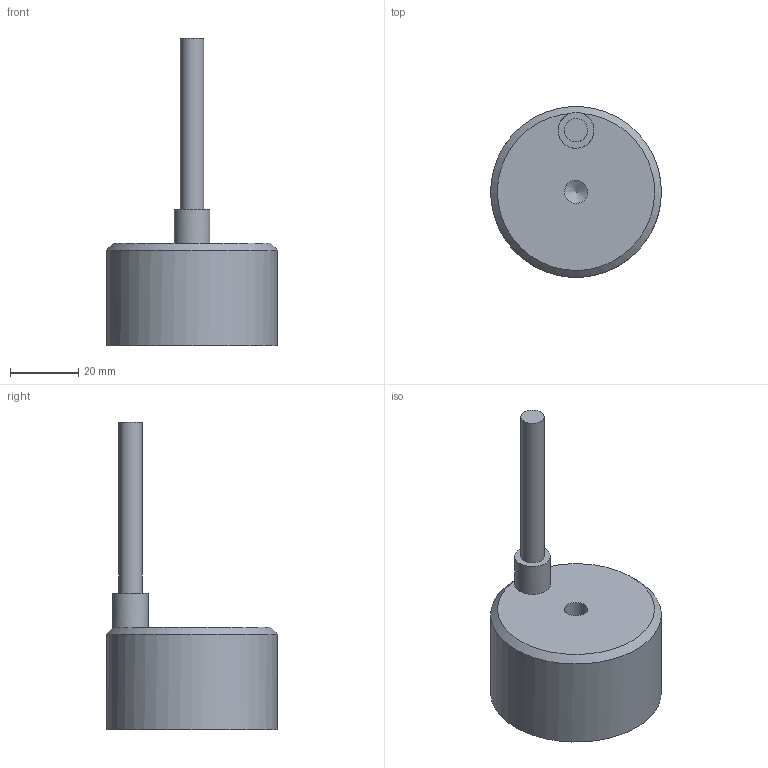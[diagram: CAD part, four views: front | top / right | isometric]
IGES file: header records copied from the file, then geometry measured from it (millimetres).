
Global section: file name: EMH-1-50Dx30H-V-DC24V; native system: unknown; preprocessor: unknown; author: unknown; organization: unknown; date: 20231215.114645; units: millimetre
Bounding box: 50 x 49.91 x 90 mm (x, y, z)
Volume: 60470.6 mm3; surface area: 10292.2 mm2
Topology: 2 solids, 2 shells, 16 faces, 28 edges, 18 vertices
Faces by surface type: bspline 16
